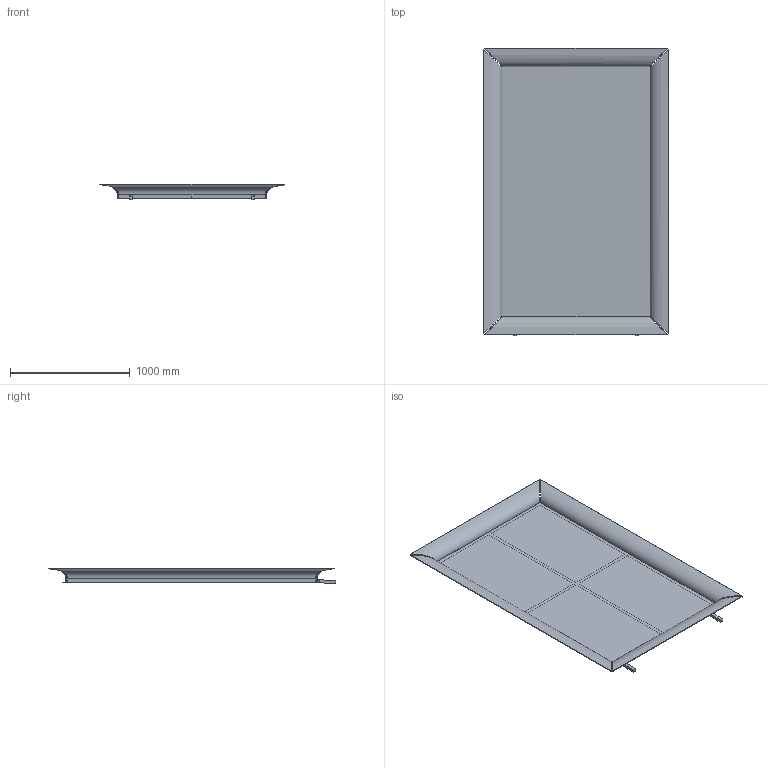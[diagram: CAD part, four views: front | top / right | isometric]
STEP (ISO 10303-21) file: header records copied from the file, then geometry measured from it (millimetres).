
FILE_DESCRIPTION(/* description */ (''),/* implementation_level */ '2;1');
FILE_NAME(/* name */ '645 - Caadre - 155x240 da terra',/* time_stamp */ '2012-06-15T12:22:26+02:00',/* author */ (''),/* organization */ (''),/* preprocessor_version */ 'ST-DEVELOPER v10',/* originating_system */ '',/* authorisation */ '');
FILE_SCHEMA (('CONFIG_CONTROL_DESIGN'));
Length unit declared in the file: centimetre
Products named in the file (1): 1
Bounding box: 1544 x 2400.66 x 131.13 mm (x, y, z)
Volume: 31305144.6 mm3; surface area: 9653250.9 mm2
Topology: 11 solids, 11 shells, 113 faces, 265 edges, 166 vertices
Faces by surface type: bspline 57, plane 56
Entity records: 3956 total; most frequent: CARTESIAN_POINT 2050, ORIENTED_EDGE 530, EDGE_CURVE 265, B_SPLINE_CURVE_WITH_KNOTS 265, VERTEX_POINT 166, EDGE_LOOP 115, ADVANCED_FACE 113, FACE_OUTER_BOUND 113
